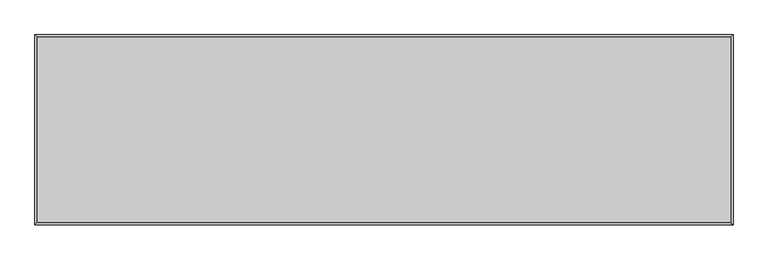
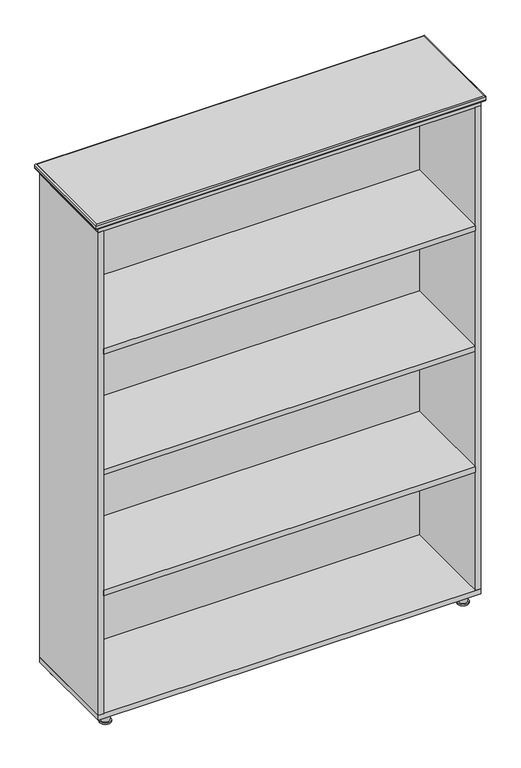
"""IFC4 building model written with IfcOpenShell, lengths in millimetres: furniture geometry, 书柜7 : W800*D419*H1515mm."""

from ifc_helpers import new_model, si_unit, point, frame, frame_2d, origin, origin_with_axes, place, context, project, spatial, polyline, circle_curve, ellipse_curve, trimmed, segment, composite_curve, outline, extrude, source, transform, mapped, element, save
from ifc_brep_helpers import plane_surface, cylinder_surface, advanced_brep


def furniture_64f8d861(model_context):
    return source(origin(), model_context, "Body", "SolidModel", [
        extrude(outline(polyline([(525.0, 159.2785466), (525.0, -115.0), (-525.0, -115.0), (-525.0, 159.2785466), (525.0, 159.2785466)])), frame((0.0, 0.0, 397.0), z_axis=(0.0, 0.0, 1.0), x_axis=(1.0, 0.0, 0.0)), (0.0, 0.0, 1.0), 16.0),
        extrude(outline(polyline([(525.0, 159.2785466), (525.0, -115.0), (-525.0, -115.0), (-525.0, 159.2785466), (525.0, 159.2785466)])), frame((0.0, 0.0, 1117.0), z_axis=(0.0, 0.0, 1.0), x_axis=(1.0, 0.0, 0.0)), (0.0, 0.0, 1.0), 16.0),
        extrude(outline(polyline([(525.0, 165.0), (525.0, 159.2785466), (-525.0, 159.2785466), (-525.0, 165.0), (525.0, 165.0)])), frame((0.0, 0.0, 45.0), z_axis=(0.0, 0.0, 1.0), x_axis=(1.0, 0.0, 0.0)), (0.0, 0.0, 1.0), 1440.0),
        extrude(outline(composite_curve([segment(trimmed(circle_curve(frame_2d((505.0, 149.3474913)), 11.561262), [point((516.561262, 149.3474913))], [point((493.438738, 149.3474913))], False, "CARTESIAN"), True, "CONTINUOUS"), segment(trimmed(circle_curve(frame_2d((505.0, 149.3474913)), 11.561262), [point((493.438738, 149.3474913))], [point((516.561262, 149.3474913))], False, "CARTESIAN"), True, "CONTINUOUS")], self_intersect=False)), frame((0.0, 0.0, 4.4532093), z_axis=(0.0, 0.0, 1.0), x_axis=(1.0, 0.0, 0.0)), (0.0, 0.0, 1.0), 25.5467907),
        extrude(outline(composite_curve([segment(trimmed(circle_curve(frame_2d((505.0, 149.3474913)), 15.4868656), [point((520.4868656, 149.3474913))], [point((489.5131344, 149.3474913))], False, "CARTESIAN"), True, "CONTINUOUS"), segment(trimmed(circle_curve(frame_2d((505.0, 149.3474913)), 15.4868656), [point((489.5131344, 149.3474913))], [point((520.4868656, 149.3474913))], False, "CARTESIAN"), True, "CONTINUOUS")], self_intersect=False)), origin_with_axes(), (0.0, 0.0, 1.0), 4.4532093),
        extrude(outline(composite_curve([segment(trimmed(circle_curve(frame_2d((-505.0, 149.3474913)), 11.561262), [point((-516.561262, 149.3474913))], [point((-493.438738, 149.3474913))], False, "CARTESIAN"), True, "CONTINUOUS"), segment(trimmed(circle_curve(frame_2d((-505.0, 149.3474913)), 11.561262), [point((-493.438738, 149.3474913))], [point((-516.561262, 149.3474913))], False, "CARTESIAN"), True, "CONTINUOUS")], self_intersect=False)), frame((0.0, 0.0, 4.4532093), z_axis=(0.0, 0.0, 1.0), x_axis=(1.0, 0.0, 0.0)), (0.0, 0.0, 1.0), 25.5467907),
        extrude(outline(composite_curve([segment(trimmed(circle_curve(frame_2d((-505.0, 149.3474913)), 15.4868656), [point((-520.4868656, 149.3474913))], [point((-489.5131344, 149.3474913))], False, "CARTESIAN"), True, "CONTINUOUS"), segment(trimmed(circle_curve(frame_2d((-505.0, 149.3474913)), 15.4868656), [point((-489.5131344, 149.3474913))], [point((-520.4868656, 149.3474913))], False, "CARTESIAN"), True, "CONTINUOUS")], self_intersect=False)), origin_with_axes(), (0.0, 0.0, 1.0), 4.4532093),
        extrude(outline(composite_curve([segment(trimmed(circle_curve(frame_2d((505.0, -88.0)), 11.561262), [point((516.561262, -88.0))], [point((493.438738, -88.0))], False, "CARTESIAN"), True, "CONTINUOUS"), segment(trimmed(circle_curve(frame_2d((505.0, -88.0)), 11.561262), [point((493.438738, -88.0))], [point((516.561262, -88.0))], False, "CARTESIAN"), True, "CONTINUOUS")], self_intersect=False)), frame((0.0, 0.0, 4.4532093), z_axis=(0.0, 0.0, 1.0), x_axis=(1.0, 0.0, 0.0)), (0.0, 0.0, 1.0), 25.5467907),
        extrude(outline(composite_curve([segment(trimmed(circle_curve(frame_2d((505.0, -88.0)), 15.4868656), [point((520.4868656, -88.0))], [point((489.5131344, -88.0))], False, "CARTESIAN"), True, "CONTINUOUS"), segment(trimmed(circle_curve(frame_2d((505.0, -88.0)), 15.4868656), [point((489.5131344, -88.0))], [point((520.4868656, -88.0))], False, "CARTESIAN"), True, "CONTINUOUS")], self_intersect=False)), origin_with_axes(), (0.0, 0.0, 1.0), 4.4532093),
        extrude(outline(composite_curve([segment(trimmed(circle_curve(frame_2d((-505.0, -88.0)), 11.561262), [point((-516.561262, -88.0))], [point((-493.438738, -88.0))], False, "CARTESIAN"), True, "CONTINUOUS"), segment(trimmed(circle_curve(frame_2d((-505.0, -88.0)), 11.561262), [point((-493.438738, -88.0))], [point((-516.561262, -88.0))], False, "CARTESIAN"), True, "CONTINUOUS")], self_intersect=False)), frame((0.0, 0.0, 4.4532093), z_axis=(0.0, 0.0, 1.0), x_axis=(1.0, 0.0, 0.0)), (0.0, 0.0, 1.0), 25.5467907),
        extrude(outline(composite_curve([segment(trimmed(circle_curve(frame_2d((-505.0, -88.0)), 15.4868656), [point((-520.4868656, -88.0))], [point((-489.5131344, -88.0))], False, "CARTESIAN"), True, "CONTINUOUS"), segment(trimmed(circle_curve(frame_2d((-505.0, -88.0)), 15.4868656), [point((-489.5131344, -88.0))], [point((-520.4868656, -88.0))], False, "CARTESIAN"), True, "CONTINUOUS")], self_intersect=False)), origin_with_axes(), (0.0, 0.0, 1.0), 4.4532093),
        advanced_brep(
        [(550.0, 178.0, 1512.0), (547.0, 175.0, 1515.0), (547.0, -119.0, 1515.0), (550.0, -122.0, 1512.0), (550.0, 178.0, 1503.0), (550.0, -122.0, 1503.0), (547.0, 175.0, 1500.0), (547.0, -119.0, 1500.0), (-547.0, -119.0, 1515.0), (-550.0, -122.0, 1512.0), (-550.0, -122.0, 1503.0), (-547.0, -119.0, 1500.0), (-547.0, 175.0, 1515.0), (-550.0, 178.0, 1512.0), (-550.0, 178.0, 1503.0), (-547.0, 175.0, 1500.0)],
        [
            (0, 1, ellipse_curve(frame((547.0, 175.0, 1512.0), z_axis=(0.7071067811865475, -0.7071067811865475, 0.0), x_axis=(0.7071067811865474, 0.7071067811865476, 0.0)), 4.2426407, 3.0)),
            (1, 2),
            (2, 3, ellipse_curve(frame((547.0, -119.0, 1512.0), z_axis=(0.7071067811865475, 0.7071067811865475, 0.0), x_axis=(-0.7071067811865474, 0.7071067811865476, 0.0)), 4.2426407, 3.0)),
            (3, 0),
            (4, 0),
            (3, 5),
            (5, 4),
            (6, 4, ellipse_curve(frame((547.0, 175.0, 1503.0), z_axis=(0.7071067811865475, -0.7071067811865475, 0.0), x_axis=(0.7071067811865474, 0.7071067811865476, 0.0)), 4.2426407, 3.0)),
            (5, 7, ellipse_curve(frame((547.0, -119.0, 1503.0), z_axis=(0.7071067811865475, 0.7071067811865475, 0.0), x_axis=(-0.7071067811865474, 0.7071067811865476, 0.0)), 4.2426407, 3.0)),
            (7, 6),
            (1, 6),
            (7, 2),
            (2, 8),
            (8, 9, ellipse_curve(frame((-547.0, -119.0, 1512.0), z_axis=(0.7071067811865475, -0.7071067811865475, 0.0), x_axis=(0.7071067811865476, 0.7071067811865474, 0.0)), 4.2426407, 3.0)),
            (9, 3),
            (9, 10),
            (10, 5),
            (10, 11, ellipse_curve(frame((-547.0, -119.0, 1503.0), z_axis=(0.7071067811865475, -0.7071067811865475, 0.0), x_axis=(0.7071067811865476, 0.7071067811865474, 0.0)), 4.2426407, 3.0)),
            (11, 7),
            (11, 8),
            (8, 12),
            (12, 13, ellipse_curve(frame((-547.0, 175.0, 1512.0), z_axis=(-0.7071067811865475, -0.7071067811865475, 0.0), x_axis=(0.7071067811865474, -0.7071067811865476, 0.0)), 4.2426407, 3.0)),
            (13, 9),
            (13, 14),
            (14, 10),
            (14, 15, ellipse_curve(frame((-547.0, 175.0, 1503.0), z_axis=(-0.7071067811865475, -0.7071067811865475, 0.0), x_axis=(0.7071067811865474, -0.7071067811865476, 0.0)), 4.2426407, 3.0)),
            (15, 11),
            (15, 12),
            (12, 1),
            (0, 13),
            (4, 14),
            (6, 15),
        ],
        [
            cylinder_surface(frame((547.0, 178.0, 1512.0), z_axis=(0.0, 1.0, 0.0), x_axis=(1.0, 0.0, 0.0)), 3.0),
            plane_surface(frame((550.0, 178.0, 1512.0), z_axis=(1.0, 0.0, 0.0), x_axis=(0.0, -1.0, 0.0))),
            cylinder_surface(frame((547.0, 178.0, 1503.0), z_axis=(0.0, 1.0, 0.0), x_axis=(1.0, 0.0, 0.0)), 3.0),
            plane_surface(frame((547.0, 175.0, 1500.0), z_axis=(-1.0, 0.0, 0.0), x_axis=(0.0, -1.0, 0.0))),
            cylinder_surface(frame((550.0, -119.0, 1512.0), z_axis=(1.0, 0.0, 0.0), x_axis=(0.0, -1.0, 0.0)), 3.0),
            plane_surface(frame((550.0, -122.0, 1512.0), z_axis=(0.0, -1.0, 0.0), x_axis=(-1.0, 0.0, 0.0))),
            cylinder_surface(frame((550.0, -119.0, 1503.0), z_axis=(1.0, 0.0, 0.0), x_axis=(0.0, -1.0, 0.0)), 3.0),
            plane_surface(frame((547.0, -119.0, 1500.0), z_axis=(0.0, 1.0, 0.0), x_axis=(-1.0, 0.0, 0.0))),
            cylinder_surface(frame((-547.0, -122.0, 1512.0), z_axis=(0.0, -1.0, 0.0), x_axis=(-1.0, 0.0, 0.0)), 3.0),
            plane_surface(frame((-550.0, -122.0, 1512.0), z_axis=(-1.0, 0.0, 0.0), x_axis=(0.0, 1.0, 0.0))),
            cylinder_surface(frame((-547.0, -122.0, 1503.0), z_axis=(0.0, -1.0, 0.0), x_axis=(-1.0, 0.0, 0.0)), 3.0),
            plane_surface(frame((-547.0, -119.0, 1500.0), z_axis=(1.0, 0.0, 0.0), x_axis=(0.0, 1.0, 0.0))),
            cylinder_surface(frame((-550.0, 175.0, 1512.0), z_axis=(-1.0, 0.0, 0.0), x_axis=(0.0, 1.0, 0.0)), 3.0),
            plane_surface(frame((-550.0, 178.0, 1512.0), z_axis=(0.0, 1.0, 0.0), x_axis=(1.0, 0.0, 0.0))),
            cylinder_surface(frame((-550.0, 175.0, 1503.0), z_axis=(-1.0, 0.0, 0.0), x_axis=(0.0, 1.0, 0.0)), 3.0),
            plane_surface(frame((-547.0, 175.0, 1500.0), z_axis=(0.0, -1.0, 0.0), x_axis=(1.0, 0.0, 0.0))),
        ],
        [
            (0, [[1, 2, 3, 4]]),
            (1, [[5, -4, 6, 7]]),
            (2, [[8, -7, 9, 10]]),
            (3, [[11, -10, 12, -2]]),
            (4, [[-3, 13, 14, 15]]),
            (5, [[-6, -15, 16, 17]]),
            (6, [[-9, -17, 18, 19]]),
            (7, [[-12, -19, 20, -13]]),
            (8, [[-14, 21, 22, 23]]),
            (9, [[-16, -23, 24, 25]]),
            (10, [[-18, -25, 26, 27]]),
            (11, [[-20, -27, 28, -21]]),
            (12, [[-22, 29, -1, 30]]),
            (13, [[-24, -30, -5, 31]]),
            (14, [[-26, -31, -8, 32]]),
            (15, [[-28, -32, -11, -29]]),
        ],
    ),
        extrude(outline(polyline([(547.0, 175.0), (547.0, -119.0), (-547.0, -119.0), (-547.0, 175.0), (547.0, 175.0)])), frame((0.0, 0.0, 1500.0), z_axis=(0.0, 0.0, 1.0), x_axis=(1.0, 0.0, 0.0)), (0.0, 0.0, 1.0), 15.0),
        extrude(outline(polyline([(525.0, -115.0), (525.0, 172.0), (540.0, 172.0), (540.0, -115.0), (525.0, -115.0)])), frame((0.0, 0.0, 45.0), z_axis=(0.0, 0.0, 1.0), x_axis=(1.0, 0.0, 0.0)), (0.0, 0.0, 1.0), 1440.0),
        extrude(outline(polyline([(-525.0, 172.0), (-525.0, -115.0), (-540.0, -115.0), (-540.0, 172.0), (-525.0, 172.0)])), frame((0.0, 0.0, 45.0), z_axis=(0.0, 0.0, 1.0), x_axis=(1.0, 0.0, 0.0)), (0.0, 0.0, 1.0), 1440.0),
        extrude(outline(polyline([(525.0, 159.2785466), (525.0, -115.0), (-525.0, -115.0), (-525.0, 159.2785466), (525.0, 159.2785466)])), frame((0.0, 0.0, 757.5), z_axis=(0.0, 0.0, 1.0), x_axis=(1.0, 0.0, 0.0)), (0.0, 0.0, 1.0), 15.0),
        extrude(outline(polyline([(540.0, -115.0), (-540.0, -115.0), (-540.0, 172.0), (540.0, 172.0), (540.0, -115.0)])), frame((0.0, 0.0, 1485.0), z_axis=(0.0, 0.0, 1.0), x_axis=(1.0, 0.0, 0.0)), (0.0, 0.0, 1.0), 15.0),
        extrude(outline(polyline([(540.0, -115.0), (-540.0, -115.0), (-540.0, 172.0), (540.0, 172.0), (540.0, -115.0)])), frame((0.0, 0.0, 30.0), z_axis=(0.0, 0.0, 1.0), x_axis=(1.0, 0.0, 0.0)), (0.0, 0.0, 1.0), 15.0),
    ])


if __name__ == "__main__":
    model = new_model("IFC4")
    model_context = context("Model", 3, world=origin())
    ifc_project = project(units=[si_unit("LENGTHUNIT", "METRE", prefix="MILLI")], contexts=[model_context])
    site = spatial("IfcSite", under=ifc_project)
    building = spatial("IfcBuilding", under=site)
    placement = place(None, origin())
    furniture_shape = furniture_64f8d861(model_context)
    element("IfcFurniture", 1, ObjectType="书柜7 : W800*D419*H1515mm", at=placement, inside=building, context=model_context, shape_type="MappedRepresentation", body=[
        mapped(furniture_shape, transform((0.0, 0.0, 0.0), x_axis=(1.0, 0.0, 0.0), y_axis=(0.0, 1.0, 0.0), z_axis=(0.0, 0.0, 1.0))),
    ])
    save(model, "model.ifc")
